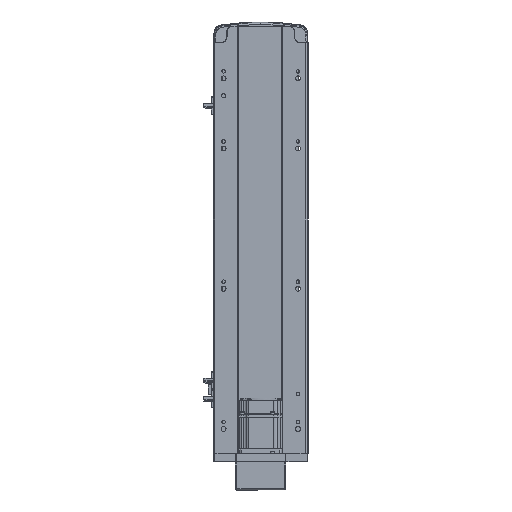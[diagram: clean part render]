
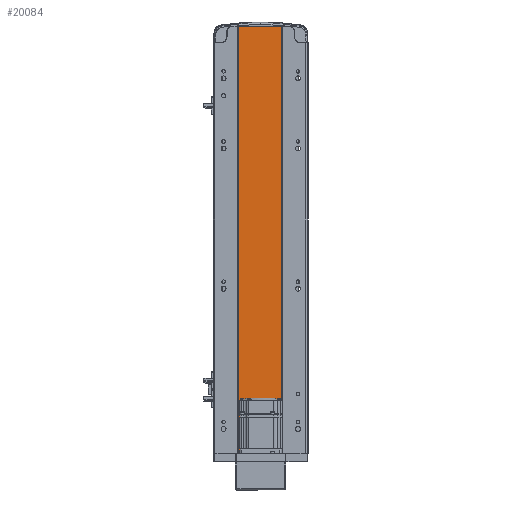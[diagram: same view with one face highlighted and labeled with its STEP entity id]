
A CAD part, front view. The second image highlights one B-rep face of the part: STEP entity #20084.
In plain terms, the highlighted planar face has unit normal (0, -1, 0).
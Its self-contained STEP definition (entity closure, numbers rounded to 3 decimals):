
#1391 = DIRECTION ( 'NONE',  ( 0., 1., 0. ) ) ;
#2768 = LINE ( 'NONE', #41956, #18583 ) ;
#6699 = DIRECTION ( 'NONE',  ( 0., 0., -1. ) ) ;
#10283 = ORIENTED_EDGE ( 'NONE', *, *, #12953, .F. ) ;
#12648 = CARTESIAN_POINT ( 'NONE',  ( 30., 1., 0. ) ) ;
#12953 = EDGE_CURVE ( 'NONE', #18464, #47811, #56288, .T. ) ;
#14783 = LINE ( 'NONE', #16909, #20367 ) ;
#16909 = CARTESIAN_POINT ( 'NONE',  ( 30., 1., 609. ) ) ;
#17713 = EDGE_CURVE ( 'NONE', #18464, #42743, #2768, .T. ) ;
#18464 = VERTEX_POINT ( 'NONE', #25612 ) ;
#18583 = VECTOR ( 'NONE', #6699, 1000. ) ;
#19107 = VECTOR ( 'NONE', #30211, 1000. ) ;
#19280 = VERTEX_POINT ( 'NONE', #12648 ) ;
#20084 = ADVANCED_FACE ( 'NONE', ( #37467 ), #54106, .F. ) ;
#20235 = ORIENTED_EDGE ( 'NONE', *, *, #17713, .T. ) ;
#20367 = VECTOR ( 'NONE', #56359, 1000. ) ;
#23553 = ORIENTED_EDGE ( 'NONE', *, *, #48185, .F. ) ;
#24030 = AXIS2_PLACEMENT_3D ( 'NONE', #53744, #1391, #40315 ) ;
#25612 = CARTESIAN_POINT ( 'NONE',  ( -32., 1., 609. ) ) ;
#26413 = CARTESIAN_POINT ( 'NONE',  ( 30., 1., 609. ) ) ;
#28763 = DIRECTION ( 'NONE',  ( 1., 0., 0. ) ) ;
#29860 = CARTESIAN_POINT ( 'NONE',  ( -32., 1., 609. ) ) ;
#30211 = DIRECTION ( 'NONE',  ( 1., 0., 0. ) ) ;
#31215 = LINE ( 'NONE', #37445, #40891 ) ;
#37445 = CARTESIAN_POINT ( 'NONE',  ( -32., 1., 0. ) ) ;
#37467 = FACE_OUTER_BOUND ( 'NONE', #52141, .T. ) ;
#40315 = DIRECTION ( 'NONE',  ( -1., 0., 0. ) ) ;
#40891 = VECTOR ( 'NONE', #28763, 1000. ) ;
#41956 = CARTESIAN_POINT ( 'NONE',  ( -32., 1., 609. ) ) ;
#42743 = VERTEX_POINT ( 'NONE', #56491 ) ;
#47811 = VERTEX_POINT ( 'NONE', #26413 ) ;
#48075 = ORIENTED_EDGE ( 'NONE', *, *, #50940, .T. ) ;
#48185 = EDGE_CURVE ( 'NONE', #47811, #19280, #14783, .T. ) ;
#50940 = EDGE_CURVE ( 'NONE', #42743, #19280, #31215, .T. ) ;
#52141 = EDGE_LOOP ( 'NONE', ( #48075, #23553, #10283, #20235 ) ) ;
#53744 = CARTESIAN_POINT ( 'NONE',  ( -32., 1., 609. ) ) ;
#54106 = PLANE ( 'NONE',  #24030 ) ;
#56288 = LINE ( 'NONE', #29860, #19107 ) ;
#56359 = DIRECTION ( 'NONE',  ( 0., 0., -1. ) ) ;
#56491 = CARTESIAN_POINT ( 'NONE',  ( -32., 1., 0. ) ) ;
